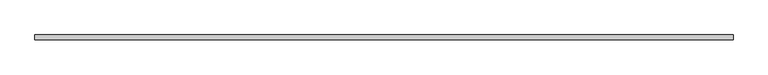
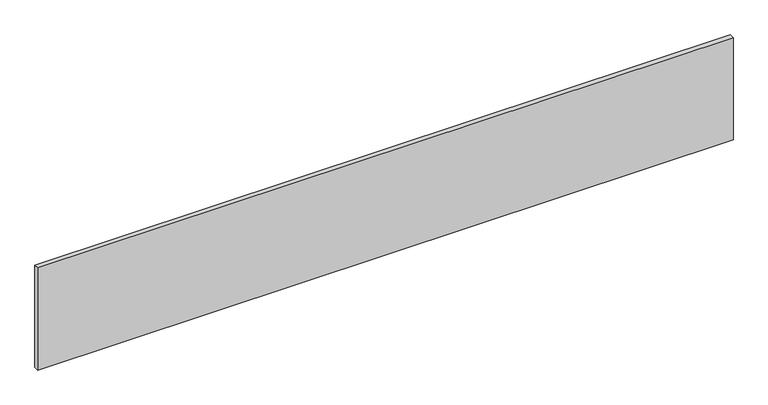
"""IFC4 building model written with IfcOpenShell, lengths in millimetres: proxy geometry, GM_Панель фасадная : Декоративные перемычки."""

from ifc_helpers import new_model, si_unit, origin, origin_with_axes, place, context, project, spatial, polyline, outline, extrude, source, transform, mapped, element, save


def generic_models_99e74fa2(model_context):
    return source(origin(), model_context, "Body", "SweptSolid", [
        extrude(outline(polyline([(-2775.0, 125.0), (125.0, 125.0), (125.0, 105.0), (-2775.0, 105.0), (-2775.0, 125.0)])), origin_with_axes(), (0.0, 0.0, 1.0), 450.0),
    ])


if __name__ == "__main__":
    model = new_model("IFC4")
    model_context = context("Model", 3, world=origin())
    ifc_project = project(units=[si_unit("LENGTHUNIT", "METRE", prefix="MILLI")], contexts=[model_context])
    site = spatial("IfcSite", under=ifc_project)
    building = spatial("IfcBuilding", under=site)
    placement = place(None, origin())
    generic_models_shape = generic_models_99e74fa2(model_context)
    element("IfcBuildingElementProxy", 1, Name="GM_Панель фасадная : Декоративные перемычки", ObjectType="GM_Панель фасадная : Декоративные перемычки", at=placement, inside=building, context=model_context, shape_type="MappedRepresentation", body=[
        mapped(generic_models_shape, transform((0.0, 0.0, 0.0), x_axis=(1.0, 0.0, 0.0), y_axis=(0.0, 1.0, 0.0), z_axis=(0.0, 0.0, 1.0))),
    ])
    save(model, "model.ifc")
